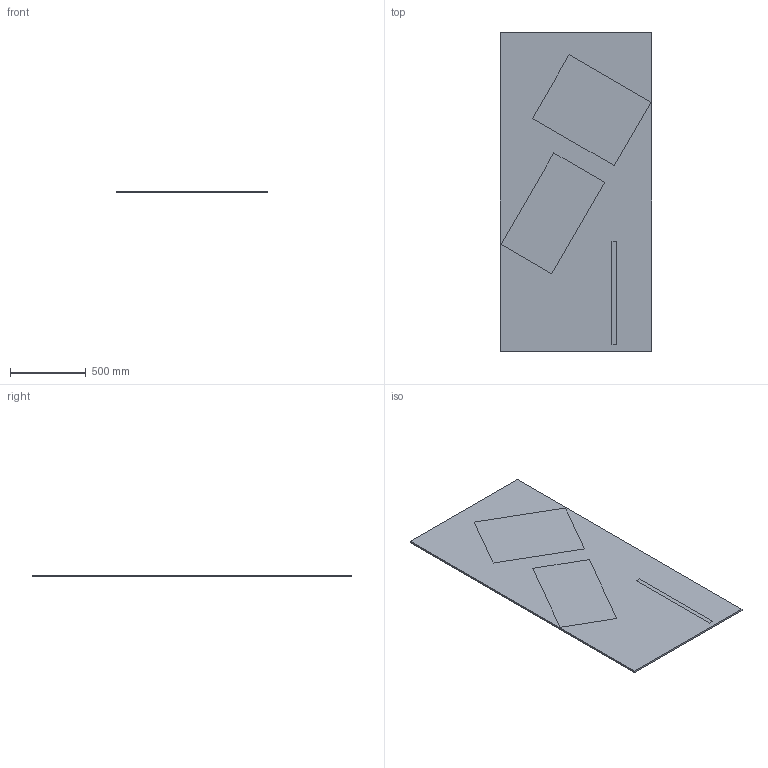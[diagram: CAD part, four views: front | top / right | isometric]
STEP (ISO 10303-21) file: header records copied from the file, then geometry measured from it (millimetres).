
FILE_DESCRIPTION(/* description */ (''),/* implementation_level */ '2;1');
FILE_NAME(/* name */ 'Bonaparte_100x210_3D_JS_20231017',/* time_stamp */ '2023-10-17T11:33:19+02:00',/* author */ (''),/* organization */ (''),/* preprocessor_version */ 'ST-DEVELOPER v16.5',/* originating_system */ 'Rhino 7.34',/* authorisation */ '');
FILE_SCHEMA (('CONFIG_CONTROL_DESIGN'));
Length unit declared in the file: millimetre
Products named in the file (1): Document
Bounding box: 1000 x 2100 x 12 mm (x, y, z)
Volume: 25200000 mm3; surface area: 4413919.9 mm2
Topology: 4 solids, 4 shells, 36 faces, 84 edges, 56 vertices
Faces by surface type: plane 36
Entity records: 980 total; most frequent: CARTESIAN_POINT 262, ORIENTED_EDGE 168, EDGE_CURVE 84, B_SPLINE_CURVE_WITH_KNOTS 84, VERTEX_POINT 56, EDGE_LOOP 42, DIRECTION 40, AXIS2_PLACEMENT_3D 38
